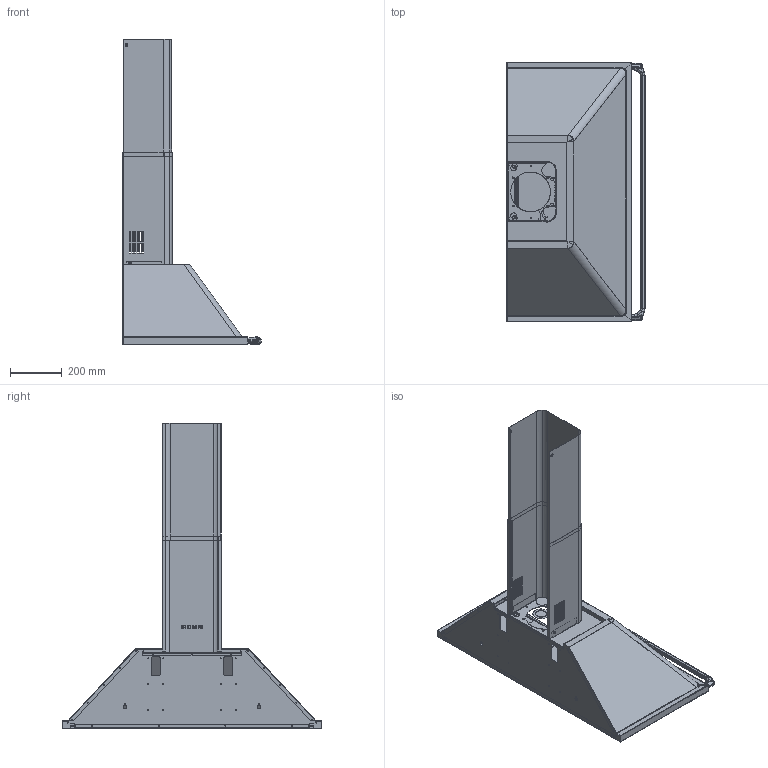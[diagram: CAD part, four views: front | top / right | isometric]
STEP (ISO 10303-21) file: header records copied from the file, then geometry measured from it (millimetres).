
FILE_DESCRIPTION(('CATIA V5 STEP Exchange'),'2;1');
FILE_NAME('C:\Users\linop\Desktop\KT100BLE\KT100BLE.stp','2024-03-08T08:39:34+00:00',('none'),('none'),'CATIA Version 5-6 Release 2014','CATIA V5 STEP AP203','none');
FILE_SCHEMA(('CONFIG_CONTROL_DESIGN'));
Products named in the file (2): Assieme; 1700613
Assembly tree (21 placements, depth 3):
  Assieme
    #57
    #15202
    #26980
    #30869
    #34573
    #37717  x3
    #41696  x2
    #44896
    #49138
    #59679
    #62324  x2
    #62717
    1700613
      #86721
      #90489
      #94823
      #98877
Bounding box: 533.6 x 999 x 1177.41 mm (x, y, z)
Volume: 2931935.4 mm3; surface area: 4313964.8 mm2
Topology: 21 solids, 25 shells, 3260 faces, 8337 edges, 5094 vertices
Faces by surface type: plane 1312, cylinder 1196, bspline 232, torus 178, extrusion 172, cone 103, sphere 67
Entity records: 102761 total; most frequent: CARTESIAN_POINT 36939, ORIENTED_EDGE 14752, DIRECTION 10610, EDGE_CURVE 7401, VERTEX_POINT 4549, AXIS2_PLACEMENT_3D 4252, VECTOR 3941, LINE 3769
